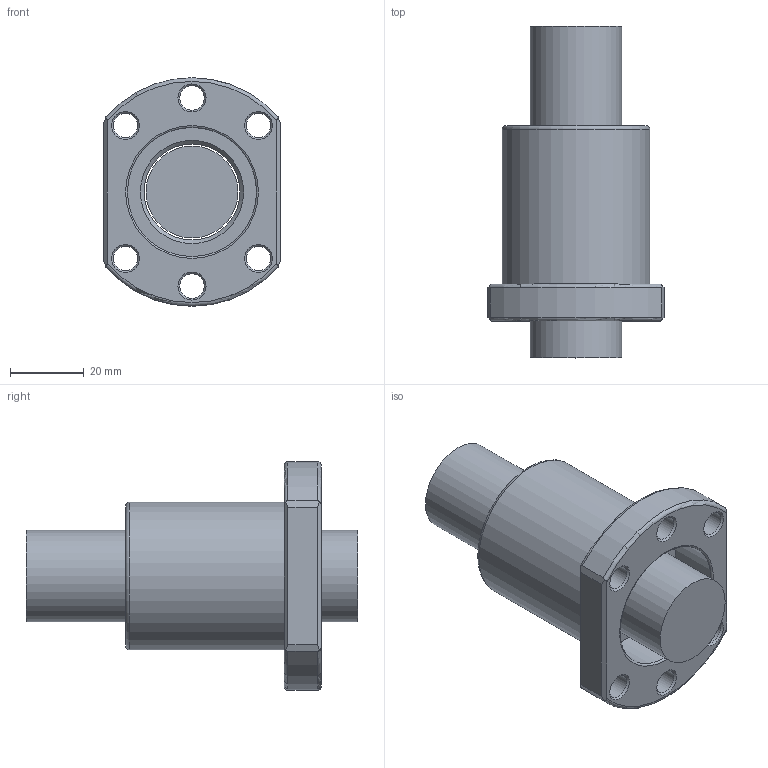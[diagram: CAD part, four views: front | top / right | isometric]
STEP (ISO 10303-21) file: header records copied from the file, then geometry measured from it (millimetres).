
FILE_DESCRIPTION(/* description */ (''),/* implementation_level */ '2;1');
FILE_NAME(/* name */ '2505..prt.step',/* time_stamp */ '2008-12-05T09:30:19+08:00',/* author */ (''),/* organization */ (''),/* preprocessor_version */ 'ST-DEVELOPER v11',/* originating_system */ 'SIEMENS UGS NX 6.0',/* authorisation */ '');
FILE_SCHEMA (('AUTOMOTIVE_DESIGN { 1 0 10303 214 1 1 1 1 }'));
Length unit declared in the file: millimetre
Products named in the file (1): 2505.
Bounding box: 48 x 90 x 62 mm (x, y, z)
Volume: 81916.5 mm3; surface area: 25041.6 mm2
Topology: 2 solids, 2 shells, 51 faces, 118 edges, 74 vertices
Faces by surface type: plane 17, cone 14, cylinder 13, torus 7
Full cylindrical faces by diameter (mm): 6.6 x6, 24.95 x1, 26 x1, 35 x2, 40 x1
Entity records: 1558 total; most frequent: CARTESIAN_POINT 462, DIRECTION 222, ORIENTED_EDGE 174, AXIS2_PLACEMENT_3D 99, EDGE_LOOP 96, EDGE_CURVE 87, FACE_BOUND 78, VERTEX_POINT 71
